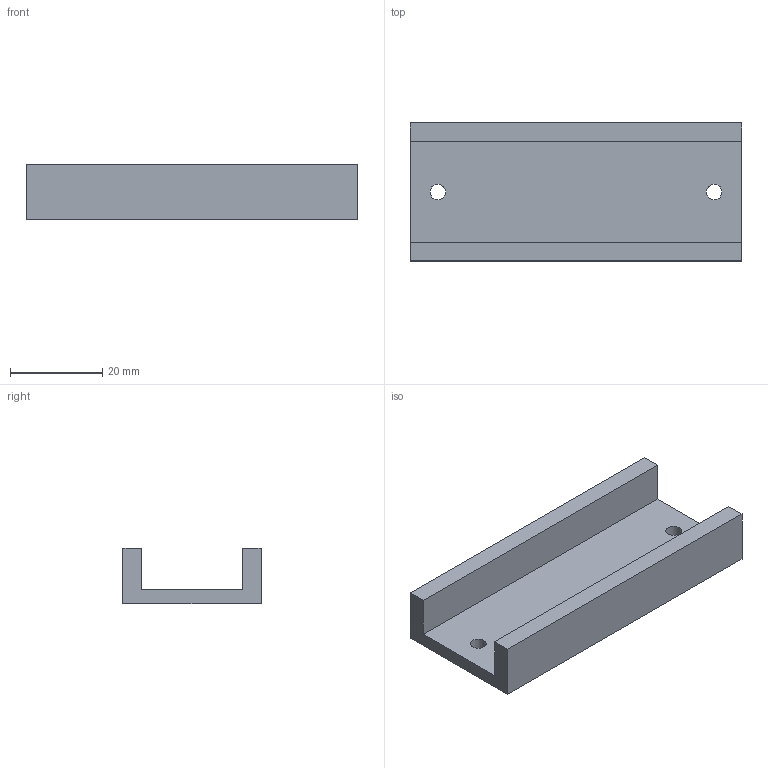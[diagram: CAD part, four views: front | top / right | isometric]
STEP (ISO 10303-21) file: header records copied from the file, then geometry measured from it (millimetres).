
FILE_DESCRIPTION(('Open CASCADE Model'),'2;1');
FILE_NAME('Open CASCADE Shape Model','2026-09-13T14:17:59',('Author'),( 'Open CASCADE'),'Open CASCADE STEP processor 7.9','Open CASCADE 7.9' ,'Unknown');
FILE_SCHEMA(('AUTOMOTIVE_DESIGN { 1 0 10303 214 1 1 1 1 }'));
Length unit declared in the file: millimetre
Products named in the file (1): Open CASCADE STEP translator 7.9 6
Bounding box: 72 x 30 x 12 mm (x, y, z)
Volume: 11609.5 mm3; surface area: 7695.8 mm2
Topology: 1 solids, 1 shells, 12 faces, 30 edges, 20 vertices
Faces by surface type: plane 10, cylinder 2
Full cylindrical faces by diameter (mm): 3.4 x2
Entity records: 766 total; most frequent: CARTESIAN_POINT 123, DIRECTION 120, LINE 82, VECTOR 82, ORIENTED_EDGE 60, PCURVE 60, DEFINITIONAL_REPRESENTATION 60, EDGE_CURVE 30
